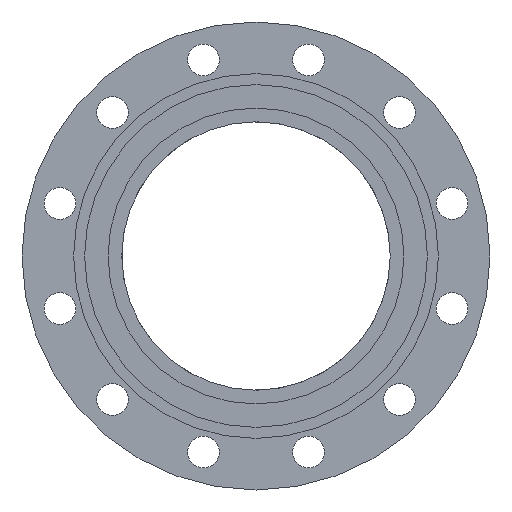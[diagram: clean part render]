
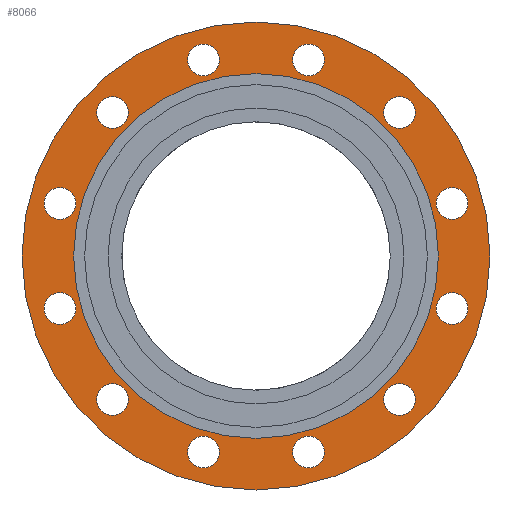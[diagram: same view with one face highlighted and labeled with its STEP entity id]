
A CAD part, left-side view. The second image highlights one B-rep face of the part: STEP entity #8066.
In plain terms, the highlighted planar face has unit normal (-1, 0, 0).
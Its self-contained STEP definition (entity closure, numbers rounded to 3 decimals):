
#8066=ADVANCED_FACE('',(#14454,#14456,#14458,#14460,#14462,#14464,#14466,#14468,
#14470,#14472,#14474,#14476,#14478,#14480),#14482,.T.);
#14454=FACE_BOUND('',#14455,.T.);
#14455=EDGE_LOOP('',(#19546));
#14456=FACE_BOUND('',#14457,.T.);
#14457=EDGE_LOOP('',(#19547));
#14458=FACE_BOUND('',#14459,.T.);
#14459=EDGE_LOOP('',(#19548));
#14460=FACE_BOUND('',#14461,.T.);
#14461=EDGE_LOOP('',(#19549));
#14462=FACE_BOUND('',#14463,.T.);
#14463=EDGE_LOOP('',(#19550));
#14464=FACE_BOUND('',#14465,.T.);
#14465=EDGE_LOOP('',(#19551));
#14466=FACE_BOUND('',#14467,.T.);
#14467=EDGE_LOOP('',(#19552));
#14468=FACE_BOUND('',#14469,.T.);
#14469=EDGE_LOOP('',(#19553));
#14470=FACE_BOUND('',#14471,.T.);
#14471=EDGE_LOOP('',(#19554));
#14472=FACE_BOUND('',#14473,.T.);
#14473=EDGE_LOOP('',(#19555));
#14474=FACE_BOUND('',#14475,.T.);
#14475=EDGE_LOOP('',(#19556));
#14476=FACE_BOUND('',#14477,.T.);
#14477=EDGE_LOOP('',(#19557));
#14478=FACE_BOUND('',#14479,.T.);
#14479=EDGE_LOOP('',(#19558));
#14480=FACE_BOUND('',#14481,.T.);
#14481=EDGE_LOOP('',(#19559));
#14482=PLANE('',#14483);
#14483=AXIS2_PLACEMENT_3D('',#14484,#14485,#14486);
#14484=CARTESIAN_POINT('',(10139.443,556.432,0.));
#14485=DIRECTION('',(-1.,0.,0.));
#14486=DIRECTION('',(0.,0.,1.));
#19546=ORIENTED_EDGE('',*,*,#22095,.F.);
#19547=ORIENTED_EDGE('',*,*,#22020,.T.);
#19548=ORIENTED_EDGE('',*,*,#22022,.T.);
#19549=ORIENTED_EDGE('',*,*,#22024,.T.);
#19550=ORIENTED_EDGE('',*,*,#22026,.T.);
#19551=ORIENTED_EDGE('',*,*,#22028,.T.);
#19552=ORIENTED_EDGE('',*,*,#22054,.T.);
#19553=ORIENTED_EDGE('',*,*,#22056,.T.);
#19554=ORIENTED_EDGE('',*,*,#22058,.T.);
#19555=ORIENTED_EDGE('',*,*,#22060,.T.);
#19556=ORIENTED_EDGE('',*,*,#22062,.T.);
#19557=ORIENTED_EDGE('',*,*,#22064,.T.);
#19558=ORIENTED_EDGE('',*,*,#22094,.T.);
#19559=ORIENTED_EDGE('',*,*,#22018,.T.);
#22018=EDGE_CURVE('',#26165,#26165,#26166,.T.);
#22020=EDGE_CURVE('',#26169,#26169,#26170,.T.);
#22022=EDGE_CURVE('',#26173,#26173,#26174,.T.);
#22024=EDGE_CURVE('',#26177,#26177,#26178,.T.);
#22026=EDGE_CURVE('',#26181,#26181,#26182,.T.);
#22028=EDGE_CURVE('',#26185,#26185,#26186,.T.);
#22054=EDGE_CURVE('',#26237,#26237,#26238,.T.);
#22056=EDGE_CURVE('',#26241,#26241,#26242,.T.);
#22058=EDGE_CURVE('',#26245,#26245,#26246,.T.);
#22060=EDGE_CURVE('',#26249,#26249,#26250,.T.);
#22062=EDGE_CURVE('',#26253,#26253,#26254,.T.);
#22064=EDGE_CURVE('',#26257,#26257,#26258,.T.);
#22094=EDGE_CURVE('',#26317,#26317,#26318,.T.);
#22095=EDGE_CURVE('',#26319,#26319,#26320,.T.);
#26165=VERTEX_POINT('',#35273);
#26166=CIRCLE('',#35274,11.5);
#26169=VERTEX_POINT('',#35283);
#26170=CIRCLE('',#35284,11.5);
#26173=VERTEX_POINT('',#35293);
#26174=CIRCLE('',#35294,11.5);
#26177=VERTEX_POINT('',#35303);
#26178=CIRCLE('',#35304,11.5);
#26181=VERTEX_POINT('',#35313);
#26182=CIRCLE('',#35314,11.5);
#26185=VERTEX_POINT('',#35323);
#26186=CIRCLE('',#35324,11.5);
#26237=VERTEX_POINT('',#35453);
#26238=CIRCLE('',#35454,11.5);
#26241=VERTEX_POINT('',#35463);
#26242=CIRCLE('',#35464,11.5);
#26245=VERTEX_POINT('',#35473);
#26246=CIRCLE('',#35474,11.5);
#26249=VERTEX_POINT('',#35483);
#26250=CIRCLE('',#35484,11.5);
#26253=VERTEX_POINT('',#35493);
#26254=CIRCLE('',#35494,11.5);
#26257=VERTEX_POINT('',#35503);
#26258=CIRCLE('',#35504,11.5);
#26317=VERTEX_POINT('',#36057);
#26318=CIRCLE('',#36058,132.5);
#26319=VERTEX_POINT('',#36062);
#26320=CIRCLE('',#36063,170.);
#35273=CARTESIAN_POINT('',(10139.443,336.756,-142.474));
#35274=AXIS2_PLACEMENT_3D('',#35275,#35276,#35277);
#35275=CARTESIAN_POINT('',(10139.443,348.256,-142.474));
#35276=DIRECTION('',(1.,0.,0.));
#35277=DIRECTION('',(0.,-1.,0.));
#35283=CARTESIAN_POINT('',(10139.443,232.458,-38.176));
#35284=AXIS2_PLACEMENT_3D('',#35285,#35286,#35287);
#35285=CARTESIAN_POINT('',(10139.443,243.958,-38.176));
#35286=DIRECTION('',(1.,0.,0.));
#35287=DIRECTION('',(0.,-1.,0.));
#35293=CARTESIAN_POINT('',(10139.443,270.634,104.298));
#35294=AXIS2_PLACEMENT_3D('',#35295,#35296,#35297);
#35295=CARTESIAN_POINT('',(10139.443,282.134,104.298));
#35296=DIRECTION('',(1.,0.,0.));
#35297=DIRECTION('',(0.,-1.,0.));
#35303=CARTESIAN_POINT('',(10139.443,413.108,142.474));
#35304=AXIS2_PLACEMENT_3D('',#35305,#35306,#35307);
#35305=CARTESIAN_POINT('',(10139.443,424.608,142.474));
#35306=DIRECTION('',(1.,0.,0.));
#35307=DIRECTION('',(0.,-1.,0.));
#35313=CARTESIAN_POINT('',(10139.443,517.406,38.176));
#35314=AXIS2_PLACEMENT_3D('',#35315,#35316,#35317);
#35315=CARTESIAN_POINT('',(10139.443,528.906,38.176));
#35316=DIRECTION('',(1.,0.,0.));
#35317=DIRECTION('',(0.,-1.,0.));
#35323=CARTESIAN_POINT('',(10139.443,479.23,-104.298));
#35324=AXIS2_PLACEMENT_3D('',#35325,#35326,#35327);
#35325=CARTESIAN_POINT('',(10139.443,490.73,-104.298));
#35326=DIRECTION('',(1.,0.,0.));
#35327=DIRECTION('',(0.,-1.,0.));
#35453=CARTESIAN_POINT('',(10139.443,517.406,-38.176));
#35454=AXIS2_PLACEMENT_3D('',#35455,#35456,#35457);
#35455=CARTESIAN_POINT('',(10139.443,528.906,-38.176));
#35456=DIRECTION('',(1.,0.,0.));
#35457=DIRECTION('',(0.,-1.,0.));
#35463=CARTESIAN_POINT('',(10139.443,479.23,104.298));
#35464=AXIS2_PLACEMENT_3D('',#35465,#35466,#35467);
#35465=CARTESIAN_POINT('',(10139.443,490.73,104.298));
#35466=DIRECTION('',(1.,0.,0.));
#35467=DIRECTION('',(0.,-1.,0.));
#35473=CARTESIAN_POINT('',(10139.443,336.756,142.474));
#35474=AXIS2_PLACEMENT_3D('',#35475,#35476,#35477);
#35475=CARTESIAN_POINT('',(10139.443,348.256,142.474));
#35476=DIRECTION('',(1.,0.,0.));
#35477=DIRECTION('',(0.,-1.,0.));
#35483=CARTESIAN_POINT('',(10139.443,232.458,38.176));
#35484=AXIS2_PLACEMENT_3D('',#35485,#35486,#35487);
#35485=CARTESIAN_POINT('',(10139.443,243.958,38.176));
#35486=DIRECTION('',(1.,0.,0.));
#35487=DIRECTION('',(0.,-1.,0.));
#35493=CARTESIAN_POINT('',(10139.443,270.634,-104.298));
#35494=AXIS2_PLACEMENT_3D('',#35495,#35496,#35497);
#35495=CARTESIAN_POINT('',(10139.443,282.134,-104.298));
#35496=DIRECTION('',(1.,0.,0.));
#35497=DIRECTION('',(0.,-1.,0.));
#35503=CARTESIAN_POINT('',(10139.443,413.108,-142.474));
#35504=AXIS2_PLACEMENT_3D('',#35505,#35506,#35507);
#35505=CARTESIAN_POINT('',(10139.443,424.608,-142.474));
#35506=DIRECTION('',(1.,0.,0.));
#35507=DIRECTION('',(0.,-1.,0.));
#36057=CARTESIAN_POINT('',(10139.443,253.932,0.));
#36058=AXIS2_PLACEMENT_3D('',#36059,#36060,#36061);
#36059=CARTESIAN_POINT('',(10139.443,386.432,0.));
#36060=DIRECTION('',(1.,0.,0.));
#36061=DIRECTION('',(0.,1.,0.));
#36062=CARTESIAN_POINT('',(10139.443,216.432,0.));
#36063=AXIS2_PLACEMENT_3D('',#36064,#36065,#36066);
#36064=CARTESIAN_POINT('',(10139.443,386.432,0.));
#36065=DIRECTION('',(1.,0.,0.));
#36066=DIRECTION('',(0.,1.,0.));
